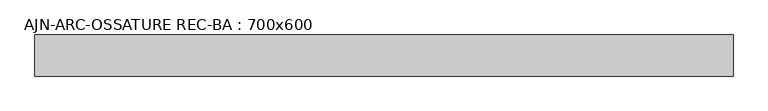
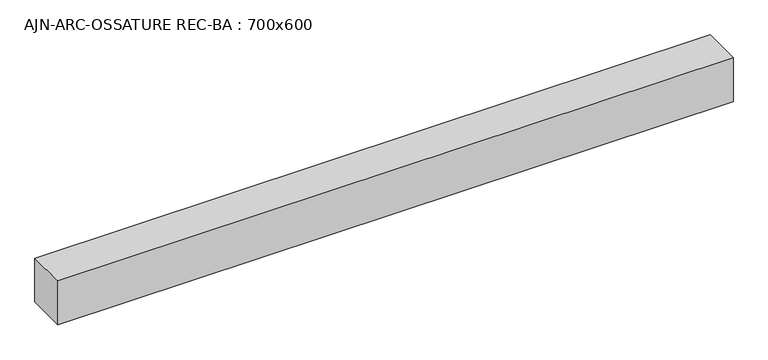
"""IFC4 building model written with IfcOpenShell, lengths in millimetres: beam geometry, AJN-ARC-OSSATURE REC-BA : 700x600."""

import ifcopenshell
import ifcopenshell.guid

model = None  # the IFC model being written
_history = None  # IfcOwnerHistory: only IFC2X3 demands one
_inside = {}  # id of a spatial element -> (the spatial element, [elements in it])
_under = {}  # id of a project, library or spatial element -> (it, [spatial elements below it])
_declared = {}  # id of a project -> (the project, [libraries it declares])
_typed = {}  # id of a type object -> (the type object, [elements of that type])
_made_of = {}  # id of a material, layer set ... -> (it, [elements and type objects made of it])


def new_model(schema):
    """Start an empty IFC model of exactly this schema.

    Asked for "IFC4X3", IfcOpenShell would pick the latest addendum, in which some entities
    have other attributes; the version numbers below select the first issue.
    IFC2X3 requires an IfcOwnerHistory on every rooted entity: one is made here for all.
    """
    global model, _history
    if schema == "IFC4X3":
        model = ifcopenshell.file(schema_version=(4, 3, 0, 0))
    else:
        model = ifcopenshell.file(schema=schema)
    _inside.clear()
    _under.clear()
    _declared.clear()
    _typed.clear()
    _made_of.clear()
    _history = None
    if model.schema == "IFC2X3":
        org = make("IfcOrganization", Name="unknown")
        user = make(
            "IfcPersonAndOrganization",
            ThePerson=make("IfcPerson", FamilyName="unknown"),
            TheOrganization=org,
        )
        app = make(
            "IfcApplication",
            ApplicationDeveloper=org,
            Version="unknown",
            ApplicationFullName="unknown",
            ApplicationIdentifier="unknown",
        )
        _history = make(
            "IfcOwnerHistory",
            OwningUser=user,
            OwningApplication=app,
            ChangeAction="ADDED",
            CreationDate=0,
        )
    return model


def make(cls, **values):
    """One entity of the class cls with the attributes given. An attribute that is None is left unset."""
    return model.create_entity(
        cls, **{name: value for name, value in values.items() if value is not None}
    )


def rooted(cls, **values):
    """An entity with a GlobalId (a new one), such as an element, a storey or a relation."""
    return make(cls, GlobalId=ifcopenshell.guid.new(), OwnerHistory=_history, **values)


def si_unit(unit_type, name, prefix=None):
    """IfcSIUnit, for example si_unit("LENGTHUNIT", "METRE", prefix="MILLI")."""
    return make("IfcSIUnit", UnitType=unit_type, Prefix=prefix, Name=name)


def assignment(units):
    """IfcUnitAssignment: the units of a project."""
    return None if units is None else make("IfcUnitAssignment", Units=units)


def point(xyz):
    """IfcCartesianPoint."""
    return None if xyz is None else make("IfcCartesianPoint", Coordinates=xyz)


def direction(xyz):
    """IfcDirection."""
    return None if xyz is None else make("IfcDirection", DirectionRatios=xyz)


def frame(location, z_axis=None, x_axis=None):
    """IfcAxis2Placement3D, a coordinate frame: its origin and axes. An axis left out is left unset."""
    return make(
        "IfcAxis2Placement3D",
        Location=point(location),
        Axis=direction(z_axis),
        RefDirection=direction(x_axis),
    )


def origin():
    """The frame at (0, 0, 0) with its axes left unset."""
    return frame((0.0, 0.0, 0.0))


def place(relative_to, where):
    """IfcLocalPlacement: puts the frame where relative to a parent placement (None: the world)."""
    return make(
        "IfcLocalPlacement", PlacementRelTo=relative_to, RelativePlacement=where
    )


def context(
    kind, dimensions, precision=None, world=None, true_north=None, identifier=None
):
    """IfcGeometricRepresentationContext, for example the 3D "Model" context."""
    return make(
        "IfcGeometricRepresentationContext",
        ContextIdentifier=identifier,
        ContextType=kind,
        CoordinateSpaceDimension=dimensions,
        Precision=precision,
        WorldCoordinateSystem=world,
        TrueNorth=true_north,
    )


def project(units=None, contexts=None):
    """IfcProject with its units and contexts."""
    return rooted(
        "IfcProject",
        Name="project",
        RepresentationContexts=contexts,
        UnitsInContext=assignment(units),
    )


def spatial(cls, under=None, at=None, **own):
    """A site, building, storey or space (cls), placed at a placement, below another one or the project."""
    s = rooted(cls, ObjectPlacement=at, **own)
    if under is not None:
        _under.setdefault(under.id(), (under, []))[1].append(s)
    return s


def polyline(points):
    """IfcPolyline through the points."""
    return make("IfcPolyline", Points=[point(p) for p in points])


def outline(outer, holes=None, kind="AREA"):
    """IfcArbitraryClosedProfileDef: a profile drawn as a closed curve; with holes, ...WithVoids."""
    if holes is None:
        return make("IfcArbitraryClosedProfileDef", ProfileType=kind, OuterCurve=outer)
    return make(
        "IfcArbitraryProfileDefWithVoids",
        ProfileType=kind,
        OuterCurve=outer,
        InnerCurves=holes,
    )


def extrude(swept, where, along, depth):
    """IfcExtrudedAreaSolid: the profile swept, set in the frame where, extruded along a direction by depth."""
    return make(
        "IfcExtrudedAreaSolid",
        SweptArea=swept,
        Position=where,
        ExtrudedDirection=direction(along),
        Depth=depth,
    )


def shape(context_of_items, identifier, shape_type, items):
    """IfcShapeRepresentation: the items that make up one representation, for example the "Body"."""
    return make(
        "IfcShapeRepresentation",
        ContextOfItems=context_of_items,
        RepresentationIdentifier=identifier,
        RepresentationType=shape_type,
        Items=items,
    )


def source(mapping_origin, context_of_items, identifier, shape_type, items):
    """IfcRepresentationMap: a shape defined once, which mapped items show again and again."""
    return make(
        "IfcRepresentationMap",
        MappingOrigin=mapping_origin,
        MappedRepresentation=shape(context_of_items, identifier, shape_type, items),
    )


def transform(
    local_origin,
    x_axis=None,
    y_axis=None,
    z_axis=None,
    scale=None,
    scale2=None,
    scale3=None,
    uniform=True,
):
    """IfcCartesianTransformationOperator3D, or its non-uniform kind. x_axis, y_axis, z_axis: its Axis1, 2, 3."""
    if uniform:
        return make(
            "IfcCartesianTransformationOperator3D",
            Axis1=direction(x_axis),
            Axis2=direction(y_axis),
            LocalOrigin=point(local_origin),
            Scale=scale,
            Axis3=direction(z_axis),
        )
    return make(
        "IfcCartesianTransformationOperator3DnonUniform",
        Axis1=direction(x_axis),
        Axis2=direction(y_axis),
        LocalOrigin=point(local_origin),
        Scale=scale,
        Axis3=direction(z_axis),
        Scale2=scale2,
        Scale3=scale3,
    )


def mapped(mapping_source, mapping_target):
    """IfcMappedItem: shows the shape of a source again, moved by a transform."""
    return make(
        "IfcMappedItem", MappingSource=mapping_source, MappingTarget=mapping_target
    )


def made_of(thing, what):
    """Note that an element or type object is made of a material, layer set ...; save() writes the relation."""
    if what is not None:
        _made_of.setdefault(what.id(), (what, []))[1].append(thing)
    return thing


def element(
    cls,
    number,
    at=None,
    inside=None,
    cuts=None,
    type_object=None,
    material=None,
    context=None,
    identifier="Body",
    shape_type=None,
    held_by="IfcProductDefinitionShape",
    body=None,
    shapes=None,
    **own,
):
    """One element of the class cls, such as IfcWall. Its Tag is "e" and its number.

    at: its placement. inside: the storey or other place that contains it. cuts: it is an
    opening in that element (IfcRelVoidsElement). A single representation is given by context,
    identifier, shape_type and body (its items); several are given by shapes. held_by: the class
    of the entity that holds the representations. save() writes the other relations.
    """
    e = rooted(cls, Tag="e%d" % number, ObjectPlacement=at, **own)
    if body is not None:
        shapes = [shape(context, identifier, shape_type, body)]
    if shapes is not None:
        e.Representation = make(held_by, Representations=shapes)
    if inside is not None:
        _inside.setdefault(inside.id(), (inside, []))[1].append(e)
    if cuts is not None:
        rooted(
            "IfcRelVoidsElement", RelatingBuildingElement=cuts, RelatedOpeningElement=e
        )
    if type_object is not None:
        _typed.setdefault(type_object.id(), (type_object, []))[1].append(e)
    return made_of(e, material)


def aggregate(whole, parts):
    """IfcRelAggregates: a whole, such as a stair, and the parts it consists of."""
    return rooted("IfcRelAggregates", RelatingObject=whole, RelatedObjects=parts)


def save(model, path):
    """Write the relations noted so far, then the file.

    IfcRelAggregates (storeys below a building ...), IfcRelContainedInSpatialStructure (elements
    in a storey), IfcRelDefinesByType, IfcRelAssociatesMaterial and IfcRelDeclares: one each for
    every whole, place, type object, material and project.
    """
    for whole, parts in _under.values():
        aggregate(whole, parts)
    for where, things in _inside.values():
        rooted(
            "IfcRelContainedInSpatialStructure",
            RelatedElements=things,
            RelatingStructure=where,
        )
    for kind, things in _typed.values():
        rooted("IfcRelDefinesByType", RelatedObjects=things, RelatingType=kind)
    for what, things in _made_of.values():
        rooted("IfcRelAssociatesMaterial", RelatedObjects=things, RelatingMaterial=what)
    for by, libraries in _declared.values():
        rooted("IfcRelDeclares", RelatingContext=by, RelatedDefinitions=libraries)
    model.write(path)


def ajn_arc_ossature_rec_ba_700x600_64ced9d5(model_context):
    return source(origin(), model_context, "Body", "SweptSolid", [
        extrude(outline(polyline([(5087.3, 300.0), (5087.3, -300.0), (-5087.3, -300.0), (-5087.3, 300.0), (5087.3, 300.0)])), frame((0.0, 0.0, -350.0), z_axis=(0.0, 0.0, 1.0), x_axis=(1.0, 0.0, 0.0)), (0.0, 0.0, 1.0), 700.0),
    ])


if __name__ == "__main__":
    model = new_model("IFC4")
    model_context = context("Model", 3, world=origin())
    ifc_project = project(units=[si_unit("LENGTHUNIT", "METRE", prefix="MILLI")], contexts=[model_context])
    site = spatial("IfcSite", under=ifc_project)
    building = spatial("IfcBuilding", under=site)
    placement = place(None, origin())
    ajn_arc_ossature_rec_ba_700x600_shape = ajn_arc_ossature_rec_ba_700x600_64ced9d5(model_context)
    element("IfcBeam", 1, ObjectType="AJN-ARC-OSSATURE REC-BA : 700x600", at=placement, inside=building, context=model_context, shape_type="MappedRepresentation", body=[
        mapped(ajn_arc_ossature_rec_ba_700x600_shape, transform((0.0, 0.0, 0.0), x_axis=(1.0, 0.0, 0.0), y_axis=(0.0, 1.0, 0.0), z_axis=(0.0, 0.0, 1.0))),
    ])
    save(model, "model.ifc")
